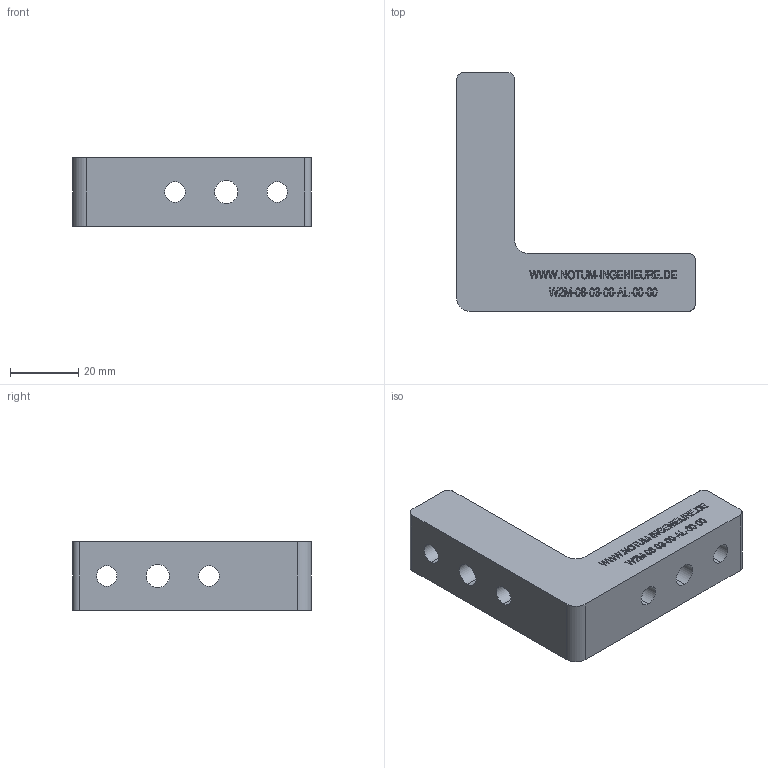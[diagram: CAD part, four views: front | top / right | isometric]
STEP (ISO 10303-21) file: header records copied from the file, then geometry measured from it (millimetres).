
FILE_DESCRIPTION (( 'STEP AP214' ), '1' );
FILE_NAME ('W2M-08-03-00-AL-00-00__Notum.STEP', '2018-03-29T11:16:57', ( '' ), ( '' ), 'SwSTEP 2.0', 'SolidWorks 2015', '' );
FILE_SCHEMA (( 'AUTOMOTIVE_DESIGN' ));
Length unit declared in the file: millimetre
Products named in the file (1): W2M-08-03-00-AL-00-00__Notum
Bounding box: 70 x 70 x 20 mm (x, y, z)
Volume: 38564.4 mm3; surface area: 11509.5 mm2
Topology: 1 solids, 1 shells, 532 faces, 1416 edges, 944 vertices
Faces by surface type: plane 344, bspline 170, cylinder 18
Entity records: 30934 total; most frequent: CARTESIAN_POINT 13199, ORIENTED_EDGE 2832, DIRECTION 1838, EDGE_CURVE 1416, LINE 1040, VECTOR 1040, VERTEX_POINT 944, EDGE_LOOP 602
